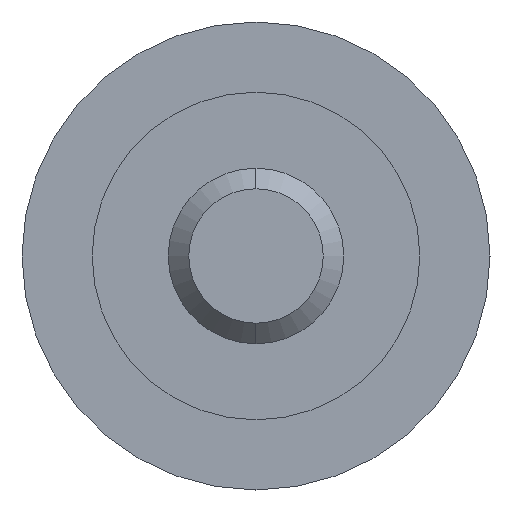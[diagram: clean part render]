
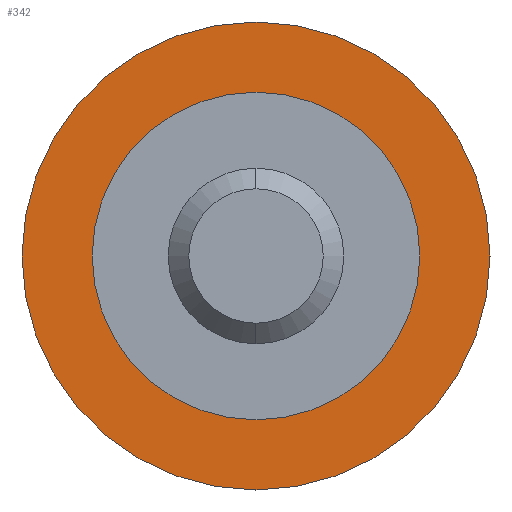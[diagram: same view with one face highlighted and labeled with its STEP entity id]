
A CAD part, left-side view. The second image highlights one B-rep face of the part: STEP entity #342.
In plain terms, the highlighted planar face has unit normal (-1, 0, 0).
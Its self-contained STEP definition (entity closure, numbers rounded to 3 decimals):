
#27 = EDGE_LOOP ( 'NONE', ( #559, #246 ) ) ;
#46 = VERTEX_POINT ( 'NONE', #426 ) ;
#57 = DIRECTION ( 'NONE',  ( 0., 0., 1. ) ) ;
#65 = DIRECTION ( 'NONE',  ( 0., 0., 1. ) ) ;
#84 = VERTEX_POINT ( 'NONE', #634 ) ;
#103 = CIRCLE ( 'NONE', #386, 4. ) ;
#111 = CARTESIAN_POINT ( 'NONE',  ( -6.5, 0., 0. ) ) ;
#117 = FACE_OUTER_BOUND ( 'NONE', #146, .T. ) ;
#146 = EDGE_LOOP ( 'NONE', ( #450, #500 ) ) ;
#150 = DIRECTION ( 'NONE',  ( 0., 0., 1. ) ) ;
#168 = CARTESIAN_POINT ( 'NONE',  ( -6.5, 0., 0. ) ) ;
#209 = DIRECTION ( 'NONE',  ( 0., 0., -1. ) ) ;
#217 = DIRECTION ( 'NONE',  ( 0., 0., 1. ) ) ;
#219 = DIRECTION ( 'NONE',  ( -1., 0., 0. ) ) ;
#227 = CARTESIAN_POINT ( 'NONE',  ( -6.5, 0., 0. ) ) ;
#246 = ORIENTED_EDGE ( 'NONE', *, *, #255, .F. ) ;
#251 = DIRECTION ( 'NONE',  ( -1., 0., 0. ) ) ;
#255 = EDGE_CURVE ( 'NONE', #556, #279, #401, .T. ) ;
#264 = AXIS2_PLACEMENT_3D ( 'NONE', #529, #372, #209 ) ;
#279 = VERTEX_POINT ( 'NONE', #349 ) ;
#336 = EDGE_CURVE ( 'NONE', #279, #556, #400, .T. ) ;
#342 = ADVANCED_FACE ( 'NONE', ( #635, #117 ), #624, .F. ) ;
#349 = CARTESIAN_POINT ( 'NONE',  ( -6.5, 0., 2.8 ) ) ;
#360 = EDGE_CURVE ( 'NONE', #46, #84, #103, .T. ) ;
#361 = CARTESIAN_POINT ( 'NONE',  ( -6.5, 0., 0. ) ) ;
#363 = CIRCLE ( 'NONE', #628, 4. ) ;
#372 = DIRECTION ( 'NONE',  ( 1., 0., 0. ) ) ;
#386 = AXIS2_PLACEMENT_3D ( 'NONE', #111, #251, #57 ) ;
#400 = CIRCLE ( 'NONE', #616, 2.8 ) ;
#401 = CIRCLE ( 'NONE', #554, 2.8 ) ;
#426 = CARTESIAN_POINT ( 'NONE',  ( -6.5, 0., -4. ) ) ;
#450 = ORIENTED_EDGE ( 'NONE', *, *, #462, .T. ) ;
#462 = EDGE_CURVE ( 'NONE', #84, #46, #363, .T. ) ;
#500 = ORIENTED_EDGE ( 'NONE', *, *, #360, .T. ) ;
#529 = CARTESIAN_POINT ( 'NONE',  ( -6.5, 2.8, 0. ) ) ;
#536 = DIRECTION ( 'NONE',  ( -1., 0., 0. ) ) ;
#554 = AXIS2_PLACEMENT_3D ( 'NONE', #227, #219, #217 ) ;
#556 = VERTEX_POINT ( 'NONE', #557 ) ;
#557 = CARTESIAN_POINT ( 'NONE',  ( -6.5, 0., -2.8 ) ) ;
#559 = ORIENTED_EDGE ( 'NONE', *, *, #336, .F. ) ;
#616 = AXIS2_PLACEMENT_3D ( 'NONE', #361, #536, #150 ) ;
#624 = PLANE ( 'NONE',  #264 ) ;
#628 = AXIS2_PLACEMENT_3D ( 'NONE', #168, #652, #65 ) ;
#634 = CARTESIAN_POINT ( 'NONE',  ( -6.5, 0., 4. ) ) ;
#635 = FACE_BOUND ( 'NONE', #27, .T. ) ;
#652 = DIRECTION ( 'NONE',  ( -1., 0., 0. ) ) ;
